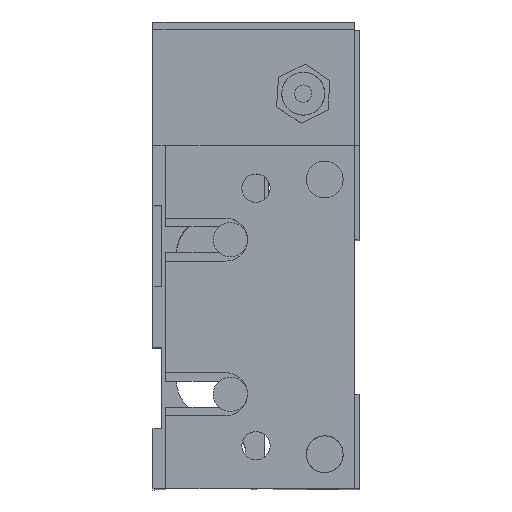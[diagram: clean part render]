
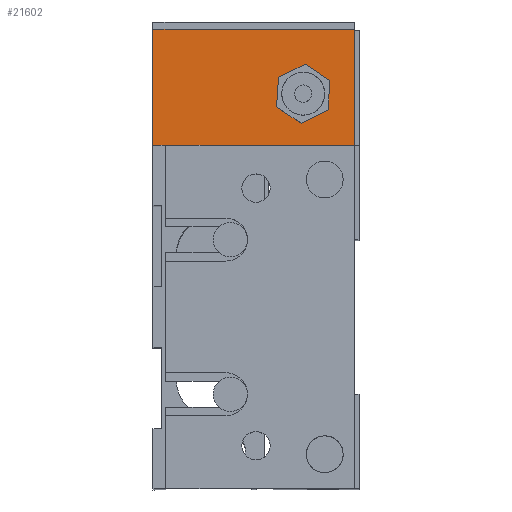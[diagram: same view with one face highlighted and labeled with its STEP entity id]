
A CAD part, top view. The second image highlights one B-rep face of the part: STEP entity #21602.
In plain terms, the highlighted planar face has unit normal (0, 0, 1) as drawn and (0, 0, -1) by its records, which use the part's own axes.
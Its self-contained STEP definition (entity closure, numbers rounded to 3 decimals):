
#1118 = VERTEX_POINT ( 'NONE', #25272 ) ;
#1127 = VERTEX_POINT ( 'NONE', #25326 ) ;
#1248 = EDGE_CURVE ( 'NONE', #1127, #1118, #25890, .T. ) ;
#1430 = VERTEX_POINT ( 'NONE', #26499 ) ;
#1491 = EDGE_CURVE ( 'NONE', #1499, #1430, #26695, .T. ) ;
#1499 = VERTEX_POINT ( 'NONE', #26703 ) ;
#1529 = VERTEX_POINT ( 'NONE', #26786 ) ;
#1577 = VERTEX_POINT ( 'NONE', #26654 ) ;
#1620 = EDGE_CURVE ( 'NONE', #1430, #1529, #26991, .T. ) ;
#1725 = EDGE_CURVE ( 'NONE', #1577, #1499, #27356, .T. ) ;
#1737 = EDGE_CURVE ( 'NONE', #1118, #1127, #27411, .T. ) ;
#9500 = DIRECTION ( 'NONE',  ( -1., 0., 0. ) ) ;
#9503 = CARTESIAN_POINT ( 'NONE',  ( 0., 23.5, 0. ) ) ;
#9505 = AXIS2_PLACEMENT_3D ( 'NONE', #9503, #9515, #9500 ) ;
#9506 = FACE_OUTER_BOUND ( 'NONE', #21561, .T. ) ;
#9508 = FACE_BOUND ( 'NONE', #21872, .T. ) ;
#9515 = DIRECTION ( 'NONE',  ( 0., 0., -1. ) ) ;
#9524 = PLANE ( 'NONE',  #9505 ) ;
#9981 = DIRECTION ( 'NONE',  ( 0., 1., 0. ) ) ;
#9982 = CARTESIAN_POINT ( 'NONE',  ( 14.5, 0., 0. ) ) ;
#10020 = VECTOR ( 'NONE', #9981, 1000. ) ;
#10031 = LINE ( 'NONE', #9982, #10020 ) ;
#21561 = EDGE_LOOP ( 'NONE', ( #21758, #21706, #21672, #21647 ) ) ;
#21596 = ORIENTED_EDGE ( 'NONE', *, *, #1248, .F. ) ;
#21602 = ADVANCED_FACE ( 'NONE', ( #9508, #9506 ), #9524, .T. ) ;
#21647 = ORIENTED_EDGE ( 'NONE', *, *, #1620, .F. ) ;
#21672 = ORIENTED_EDGE ( 'NONE', *, *, #21888, .F. ) ;
#21706 = ORIENTED_EDGE ( 'NONE', *, *, #1725, .F. ) ;
#21758 = ORIENTED_EDGE ( 'NONE', *, *, #1491, .F. ) ;
#21872 = EDGE_LOOP ( 'NONE', ( #21878, #21596 ) ) ;
#21878 = ORIENTED_EDGE ( 'NONE', *, *, #1737, .F. ) ;
#21888 = EDGE_CURVE ( 'NONE', #1529, #1577, #10031, .T. ) ;
#25272 = CARTESIAN_POINT ( 'NONE',  ( 4.5, 17.5, 0. ) ) ;
#25326 = CARTESIAN_POINT ( 'NONE',  ( 9.5, 17.5, 0. ) ) ;
#25849 = CARTESIAN_POINT ( 'NONE',  ( 7., 17.5, 0. ) ) ;
#25880 = DIRECTION ( 'NONE',  ( -1., 0., 0. ) ) ;
#25881 = DIRECTION ( 'NONE',  ( 0., 0., -1. ) ) ;
#25882 = AXIS2_PLACEMENT_3D ( 'NONE', #25849, #25881, #25880 ) ;
#25890 = CIRCLE ( 'NONE', #25882, 2.5 ) ;
#26499 = CARTESIAN_POINT ( 'NONE',  ( 0., 0., 0. ) ) ;
#26654 = CARTESIAN_POINT ( 'NONE',  ( 14.5, 23.5, 0. ) ) ;
#26694 = CARTESIAN_POINT ( 'NONE',  ( 0., 0., 0. ) ) ;
#26695 = LINE ( 'NONE', #26694, #26720 ) ;
#26703 = CARTESIAN_POINT ( 'NONE',  ( 0., 23.5, 0. ) ) ;
#26719 = DIRECTION ( 'NONE',  ( 0., -1., 0. ) ) ;
#26720 = VECTOR ( 'NONE', #26719, 1000. ) ;
#26786 = CARTESIAN_POINT ( 'NONE',  ( 14.5, 0., 0. ) ) ;
#26990 = CARTESIAN_POINT ( 'NONE',  ( 0., 0., 0. ) ) ;
#26991 = LINE ( 'NONE', #26990, #27052 ) ;
#27051 = DIRECTION ( 'NONE',  ( 1., 0., 0. ) ) ;
#27052 = VECTOR ( 'NONE', #27051, 1000. ) ;
#27348 = CARTESIAN_POINT ( 'NONE',  ( 7., 17.5, 0. ) ) ;
#27353 = DIRECTION ( 'NONE',  ( -1., 0., 0. ) ) ;
#27354 = VECTOR ( 'NONE', #27353, 1000. ) ;
#27355 = CARTESIAN_POINT ( 'NONE',  ( 0., 23.5, 0. ) ) ;
#27356 = LINE ( 'NONE', #27355, #27354 ) ;
#27403 = DIRECTION ( 'NONE',  ( -1., 0., 0. ) ) ;
#27406 = AXIS2_PLACEMENT_3D ( 'NONE', #27348, #27408, #27403 ) ;
#27408 = DIRECTION ( 'NONE',  ( 0., 0., -1. ) ) ;
#27411 = CIRCLE ( 'NONE', #27406, 2.5 ) ;
